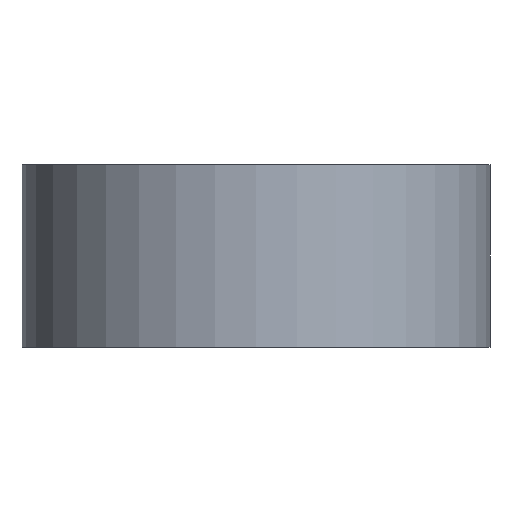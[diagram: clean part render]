
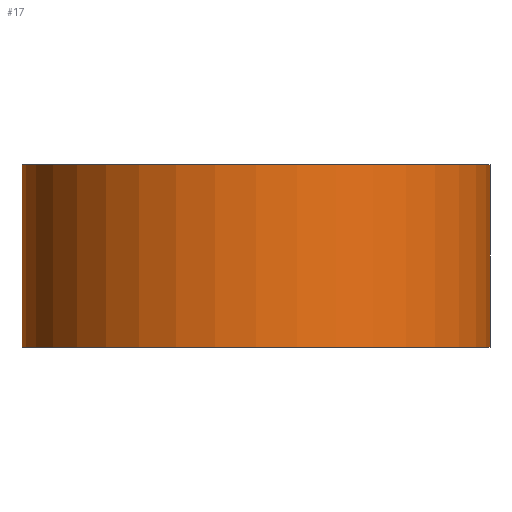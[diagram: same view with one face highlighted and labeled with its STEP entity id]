
A CAD part, front view. The second image highlights one B-rep face of the part: STEP entity #17.
In plain terms, the highlighted cylindrical face has radius 3.98 mm (diameter 7.96 mm), a full revolution.
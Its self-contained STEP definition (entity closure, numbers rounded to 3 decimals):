
#17 = ADVANCED_FACE('',(#18),#31,.T.);
#18 = FACE_BOUND('',#19,.T.);
#19 = EDGE_LOOP('',(#20,#54,#77,#104));
#20 = ORIENTED_EDGE('',*,*,#21,.F.);
#21 = EDGE_CURVE('',#22,#22,#24,.T.);
#22 = VERTEX_POINT('',#23);
#23 = CARTESIAN_POINT('',(3.98,0.,-42.1));
#24 = SURFACE_CURVE('',#25,(#30,#42),.PCURVE_S1.);
#25 = CIRCLE('',#26,3.98);
#26 = AXIS2_PLACEMENT_3D('',#27,#28,#29);
#27 = CARTESIAN_POINT('',(0.,0.,-42.1));
#28 = DIRECTION('',(0.,0.,1.));
#29 = DIRECTION('',(1.,0.,-0.));
#30 = PCURVE('',#31,#36);
#31 = CYLINDRICAL_SURFACE('',#32,3.98);
#32 = AXIS2_PLACEMENT_3D('',#33,#34,#35);
#33 = CARTESIAN_POINT('',(0.,0.,-45.2));
#34 = DIRECTION('',(0.,0.,1.));
#35 = DIRECTION('',(1.,0.,-0.));
#36 = DEFINITIONAL_REPRESENTATION('',(#37),#41);
#37 = LINE('',#38,#39);
#38 = CARTESIAN_POINT('',(0.,3.1));
#39 = VECTOR('',#40,1.);
#40 = DIRECTION('',(1.,0.));
#41 = ( GEOMETRIC_REPRESENTATION_CONTEXT(2) 
PARAMETRIC_REPRESENTATION_CONTEXT() REPRESENTATION_CONTEXT('2D SPACE',''
  ) );
#42 = PCURVE('',#43,#48);
#43 = PLANE('',#44);
#44 = AXIS2_PLACEMENT_3D('',#45,#46,#47);
#45 = CARTESIAN_POINT('',(0.,0.,-42.1));
#46 = DIRECTION('',(0.,0.,1.));
#47 = DIRECTION('',(1.,0.,-0.));
#48 = DEFINITIONAL_REPRESENTATION('',(#49),#53);
#49 = CIRCLE('',#50,3.98);
#50 = AXIS2_PLACEMENT_2D('',#51,#52);
#51 = CARTESIAN_POINT('',(0.,0.));
#52 = DIRECTION('',(1.,0.));
#53 = ( GEOMETRIC_REPRESENTATION_CONTEXT(2) 
PARAMETRIC_REPRESENTATION_CONTEXT() REPRESENTATION_CONTEXT('2D SPACE',''
  ) );
#54 = ORIENTED_EDGE('',*,*,#55,.F.);
#55 = EDGE_CURVE('',#56,#22,#58,.T.);
#56 = VERTEX_POINT('',#57);
#57 = CARTESIAN_POINT('',(3.98,0.,-45.2));
#58 = SEAM_CURVE('',#59,(#63,#70),.PCURVE_S1.);
#59 = LINE('',#60,#61);
#60 = CARTESIAN_POINT('',(3.98,0.,-45.2));
#61 = VECTOR('',#62,1.);
#62 = DIRECTION('',(0.,0.,1.));
#63 = PCURVE('',#31,#64);
#64 = DEFINITIONAL_REPRESENTATION('',(#65),#69);
#65 = LINE('',#66,#67);
#66 = CARTESIAN_POINT('',(6.283,-0.));
#67 = VECTOR('',#68,1.);
#68 = DIRECTION('',(0.,1.));
#69 = ( GEOMETRIC_REPRESENTATION_CONTEXT(2) 
PARAMETRIC_REPRESENTATION_CONTEXT() REPRESENTATION_CONTEXT('2D SPACE',''
  ) );
#70 = PCURVE('',#31,#71);
#71 = DEFINITIONAL_REPRESENTATION('',(#72),#76);
#72 = LINE('',#73,#74);
#73 = CARTESIAN_POINT('',(0.,-0.));
#74 = VECTOR('',#75,1.);
#75 = DIRECTION('',(0.,1.));
#76 = ( GEOMETRIC_REPRESENTATION_CONTEXT(2) 
PARAMETRIC_REPRESENTATION_CONTEXT() REPRESENTATION_CONTEXT('2D SPACE',''
  ) );
#77 = ORIENTED_EDGE('',*,*,#78,.T.);
#78 = EDGE_CURVE('',#56,#56,#79,.T.);
#79 = SURFACE_CURVE('',#80,(#85,#92),.PCURVE_S1.);
#80 = CIRCLE('',#81,3.98);
#81 = AXIS2_PLACEMENT_3D('',#82,#83,#84);
#82 = CARTESIAN_POINT('',(0.,0.,-45.2));
#83 = DIRECTION('',(0.,0.,1.));
#84 = DIRECTION('',(1.,0.,-0.));
#85 = PCURVE('',#31,#86);
#86 = DEFINITIONAL_REPRESENTATION('',(#87),#91);
#87 = LINE('',#88,#89);
#88 = CARTESIAN_POINT('',(0.,0.));
#89 = VECTOR('',#90,1.);
#90 = DIRECTION('',(1.,0.));
#91 = ( GEOMETRIC_REPRESENTATION_CONTEXT(2) 
PARAMETRIC_REPRESENTATION_CONTEXT() REPRESENTATION_CONTEXT('2D SPACE',''
  ) );
#92 = PCURVE('',#93,#98);
#93 = PLANE('',#94);
#94 = AXIS2_PLACEMENT_3D('',#95,#96,#97);
#95 = CARTESIAN_POINT('',(0.,0.,-45.2));
#96 = DIRECTION('',(0.,0.,1.));
#97 = DIRECTION('',(1.,0.,-0.));
#98 = DEFINITIONAL_REPRESENTATION('',(#99),#103);
#99 = CIRCLE('',#100,3.98);
#100 = AXIS2_PLACEMENT_2D('',#101,#102);
#101 = CARTESIAN_POINT('',(0.,0.));
#102 = DIRECTION('',(1.,0.));
#103 = ( GEOMETRIC_REPRESENTATION_CONTEXT(2) 
PARAMETRIC_REPRESENTATION_CONTEXT() REPRESENTATION_CONTEXT('2D SPACE',''
  ) );
#104 = ORIENTED_EDGE('',*,*,#55,.T.);
